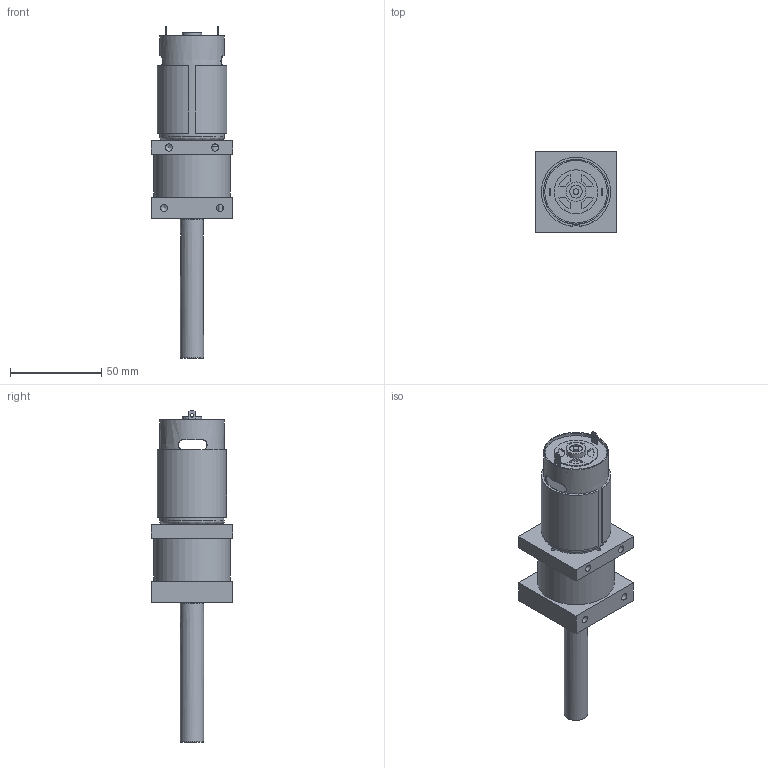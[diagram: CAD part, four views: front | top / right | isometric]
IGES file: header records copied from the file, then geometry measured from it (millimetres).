
Global section: file name: No Iges File Name specified; native system: AutoDesk Inventor R5.0; preprocessor: AutoDesk Inventor Iges Exporter R5.0; author: No Author specified; organization: No Organization specified; date: 20070115.071206; units: inch
Bounding box: 44.45 x 44.45 x 181.83 mm (x, y, z)
Surface area: 45418.1 mm2 (no closed solid volume)
Topology: 0 solids, 0 shells, 210 faces, 906 edges, 816 vertices
Faces by surface type: plane 85, revolution 73, bspline 52
